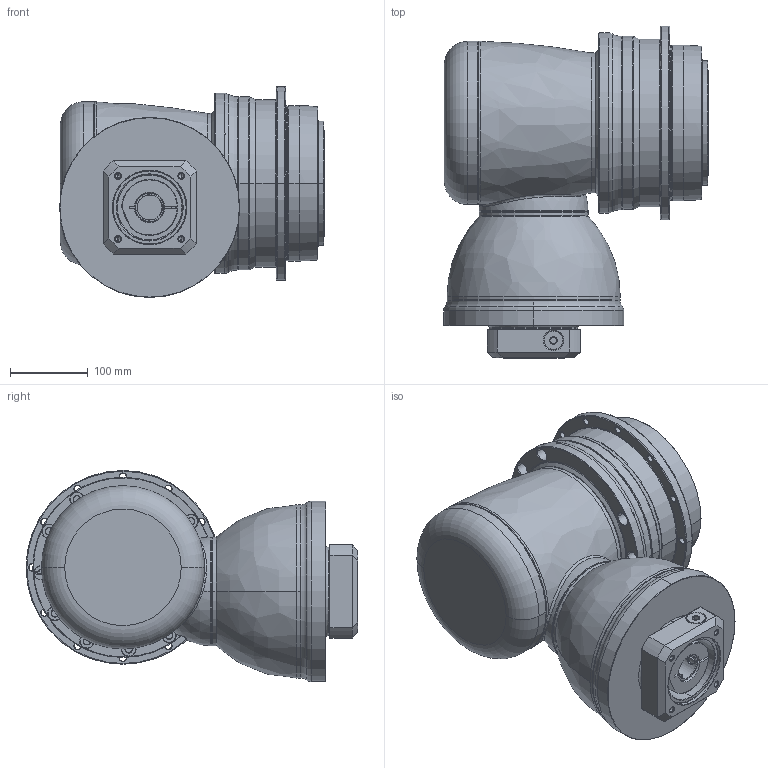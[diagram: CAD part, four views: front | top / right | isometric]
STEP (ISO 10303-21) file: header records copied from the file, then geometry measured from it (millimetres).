
FILE_DESCRIPTION((''),'2;1');
FILE_NAME('AHK200_2ST_32-P0409700101_ASM','2016-10-13T',('d01943'),(''),'PRO/ENGINEER BY PARAMETRIC TECHNOLOGY CORPORATION, 2008410','PRO/ENGINEER BY PARAMETRIC TECHNOLOGY CORPORATION, 2008410','');
FILE_SCHEMA(('CONFIG_CONTROL_DESIGN'));
Length unit declared in the file: millimetre
Products named in the file (12): P1008600002; P1802600011; P0278600003; P0359600002; P1315600001; P1007600001; P1318600001; P0503700010; P0912600201; P0409700101; 21711418017; AHK200_2ST_32-P0409700101_ASM
Assembly tree (11 placements, depth 2):
  AHK200_2ST_32-P0409700101_ASM
    P1008600002
    P1802600011
    P0278600003
    P0359600002
    P1315600001
    P1007600001
    P1318600001
    P0503700010
    P0912600201
    P0409700101
    21711418017
Bounding box: 341 x 427.25 x 271.75 mm (x, y, z)
Volume: 13057933.2 mm3; surface area: 1107126.4 mm2
Topology: 12 solids, 12 shells, 915 faces, 2085 edges, 1210 vertices
Faces by surface type: cylinder 320, cone 294, plane 134, torus 128, bspline 37, sphere 2
Entity records: 31909 total; most frequent: CARTESIAN_POINT 10842, DIRECTION 4850, ORIENTED_EDGE 4046, AXIS2_PLACEMENT_3D 2082, EDGE_CURVE 2023, VERTEX_POINT 1210, CIRCLE 1181, EDGE_LOOP 1055
